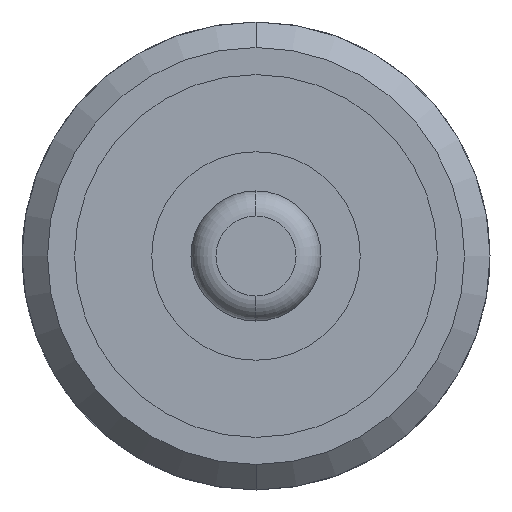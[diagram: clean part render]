
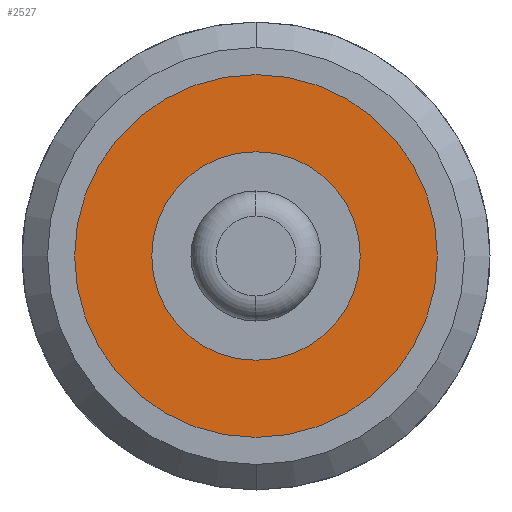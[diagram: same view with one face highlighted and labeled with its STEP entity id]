
A CAD part, left-side view. The second image highlights one B-rep face of the part: STEP entity #2527.
In plain terms, the highlighted planar face has unit normal (-1, 0, 0).
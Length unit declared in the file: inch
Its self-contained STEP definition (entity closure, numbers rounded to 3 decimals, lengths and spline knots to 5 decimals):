
#350 = AXIS2_PLACEMENT_3D ( 'NONE', #2207, #2162, #2245 ) ;
#443 = CIRCLE ( 'NONE', #448, 0.125 ) ;
#448 = AXIS2_PLACEMENT_3D ( 'NONE', #2745, #2734, #2689 ) ;
#456 = AXIS2_PLACEMENT_3D ( 'NONE', #2940, #2912, #2907 ) ;
#475 = AXIS2_PLACEMENT_3D ( 'NONE', #2683, #2687, #2785 ) ;
#476 = CIRCLE ( 'NONE', #475, 0.2175 ) ;
#612 = AXIS2_PLACEMENT_3D ( 'NONE', #1302, #1300, #1287 ) ;
#756 = CIRCLE ( 'NONE', #456, 0.2175 ) ;
#773 = CIRCLE ( 'NONE', #350, 0.125 ) ;
#1090 = ORIENTED_EDGE ( 'NONE', *, *, #2466, .T. ) ;
#1133 = ORIENTED_EDGE ( 'NONE', *, *, #1981, .T. ) ;
#1275 = PLANE ( 'NONE',  #612 ) ;
#1282 = FACE_BOUND ( 'NONE', #3205, .T. ) ;
#1287 = DIRECTION ( 'NONE',  ( 0., 0., 1. ) ) ;
#1300 = DIRECTION ( 'NONE',  ( -1., 0., 0. ) ) ;
#1302 = CARTESIAN_POINT ( 'NONE',  ( -1.544, 0., 0. ) ) ;
#1308 = FACE_OUTER_BOUND ( 'NONE', #3051, .T. ) ;
#1981 = EDGE_CURVE ( 'NONE', #3186, #3303, #773, .T. ) ;
#2162 = DIRECTION ( 'NONE',  ( 1., 0., 0. ) ) ;
#2207 = CARTESIAN_POINT ( 'NONE',  ( -1.544, 0., 0. ) ) ;
#2245 = DIRECTION ( 'NONE',  ( 0., 0., -1. ) ) ;
#2296 = CARTESIAN_POINT ( 'NONE',  ( -1.544, 0., 0.2175 ) ) ;
#2336 = CARTESIAN_POINT ( 'NONE',  ( -1.544, 0., -0.125 ) ) ;
#2375 = CARTESIAN_POINT ( 'NONE',  ( -1.544, 0., -0.2175 ) ) ;
#2403 = CARTESIAN_POINT ( 'NONE',  ( -1.544, 0., 0.125 ) ) ;
#2429 = EDGE_CURVE ( 'NONE', #3255, #3341, #756, .T. ) ;
#2451 = EDGE_CURVE ( 'NONE', #3303, #3186, #443, .T. ) ;
#2466 = EDGE_CURVE ( 'NONE', #3341, #3255, #476, .T. ) ;
#2527 = ADVANCED_FACE ( 'NONE', ( #1308, #1282 ), #1275, .T. ) ;
#2683 = CARTESIAN_POINT ( 'NONE',  ( -1.544, 0., 0. ) ) ;
#2687 = DIRECTION ( 'NONE',  ( -1., 0., 0. ) ) ;
#2689 = DIRECTION ( 'NONE',  ( 0., 0., -1. ) ) ;
#2734 = DIRECTION ( 'NONE',  ( 1., 0., 0. ) ) ;
#2745 = CARTESIAN_POINT ( 'NONE',  ( -1.544, 0., 0. ) ) ;
#2785 = DIRECTION ( 'NONE',  ( 0., 0., 1. ) ) ;
#2907 = DIRECTION ( 'NONE',  ( 0., 0., 1. ) ) ;
#2912 = DIRECTION ( 'NONE',  ( -1., 0., 0. ) ) ;
#2940 = CARTESIAN_POINT ( 'NONE',  ( -1.544, 0., 0. ) ) ;
#3051 = EDGE_LOOP ( 'NONE', ( #1090, #3357 ) ) ;
#3186 = VERTEX_POINT ( 'NONE', #2403 ) ;
#3205 = EDGE_LOOP ( 'NONE', ( #3259, #1133 ) ) ;
#3255 = VERTEX_POINT ( 'NONE', #2296 ) ;
#3259 = ORIENTED_EDGE ( 'NONE', *, *, #2451, .T. ) ;
#3303 = VERTEX_POINT ( 'NONE', #2336 ) ;
#3341 = VERTEX_POINT ( 'NONE', #2375 ) ;
#3357 = ORIENTED_EDGE ( 'NONE', *, *, #2429, .T. ) ;
